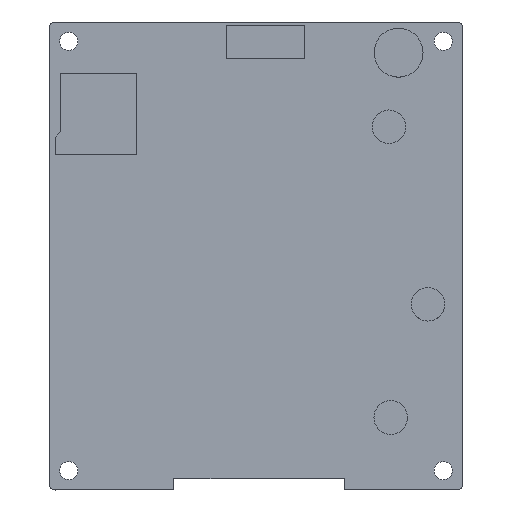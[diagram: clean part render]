
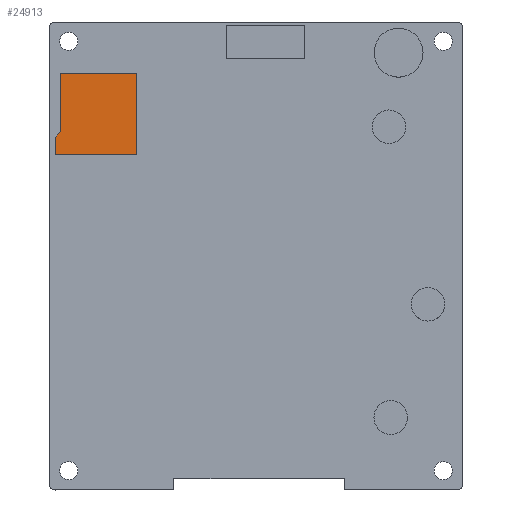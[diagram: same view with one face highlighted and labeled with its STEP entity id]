
A CAD part, top view. The second image highlights one B-rep face of the part: STEP entity #24913.
In plain terms, the highlighted planar face has unit normal (0, 0, 1).
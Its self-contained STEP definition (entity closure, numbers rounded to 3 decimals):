
#9013=DIRECTION('',(-1.,0.,0.));
#9014=VECTOR('',#9013,13.805);
#9015=CARTESIAN_POINT('',(-21.63,28.218,2.));
#9016=LINE('',#9015,#9014);
#9017=DIRECTION('',(0.,1.,0.));
#9018=VECTOR('',#9017,14.732);
#9019=CARTESIAN_POINT('',(-21.63,13.486,2.));
#9020=LINE('',#9019,#9018);
#9021=DIRECTION('',(1.,0.,0.));
#9022=VECTOR('',#9021,14.859);
#9023=CARTESIAN_POINT('',(-36.489,13.486,2.));
#9024=LINE('',#9023,#9022);
#9025=DIRECTION('',(0.,-1.,0.));
#9026=VECTOR('',#9025,3.118);
#9027=CARTESIAN_POINT('',(-36.489,16.604,2.));
#9028=LINE('',#9027,#9026);
#9029=DIRECTION('',(-0.744,-0.668,0.));
#9030=VECTOR('',#9029,1.417);
#9031=CARTESIAN_POINT('',(-35.435,17.55,2.));
#9032=LINE('',#9031,#9030);
#9033=DIRECTION('',(0.,-1.,0.));
#9034=VECTOR('',#9033,10.668);
#9035=CARTESIAN_POINT('',(-35.435,28.218,2.));
#9036=LINE('',#9035,#9034);
#12089=CARTESIAN_POINT('',(-21.63,28.218,2.));
#12090=CARTESIAN_POINT('',(-35.435,28.218,2.));
#12091=VERTEX_POINT('',#12089);
#12092=VERTEX_POINT('',#12090);
#12093=CARTESIAN_POINT('',(-35.435,17.55,2.));
#12094=VERTEX_POINT('',#12093);
#12095=CARTESIAN_POINT('',(-36.489,16.604,2.));
#12096=VERTEX_POINT('',#12095);
#12097=CARTESIAN_POINT('',(-36.489,13.486,2.));
#12098=VERTEX_POINT('',#12097);
#12099=CARTESIAN_POINT('',(-21.63,13.486,2.));
#12100=VERTEX_POINT('',#12099);
#24894=CARTESIAN_POINT('',(0.,0.,2.));
#24895=DIRECTION('',(0.,0.,1.));
#24896=DIRECTION('',(0.,-1.,0.));
#24897=AXIS2_PLACEMENT_3D('',#24894,#24895,#24896);
#24898=PLANE('',#24897);
#24900=ORIENTED_EDGE('',*,*,#24899,.F.);
#24902=ORIENTED_EDGE('',*,*,#24901,.F.);
#24904=ORIENTED_EDGE('',*,*,#24903,.F.);
#24906=ORIENTED_EDGE('',*,*,#24905,.F.);
#24908=ORIENTED_EDGE('',*,*,#24907,.F.);
#24910=ORIENTED_EDGE('',*,*,#24909,.F.);
#24911=EDGE_LOOP('',(#24900,#24902,#24904,#24906,#24908,#24910));
#24912=FACE_OUTER_BOUND('',#24911,.F.);
#24899=EDGE_CURVE('',#12091,#12092,#9016,.T.);
#24901=EDGE_CURVE('',#12100,#12091,#9020,.T.);
#24903=EDGE_CURVE('',#12098,#12100,#9024,.T.);
#24905=EDGE_CURVE('',#12096,#12098,#9028,.T.);
#24907=EDGE_CURVE('',#12094,#12096,#9032,.T.);
#24909=EDGE_CURVE('',#12092,#12094,#9036,.T.);
#24913=ADVANCED_FACE('',(#24912),#24898,.T.);
